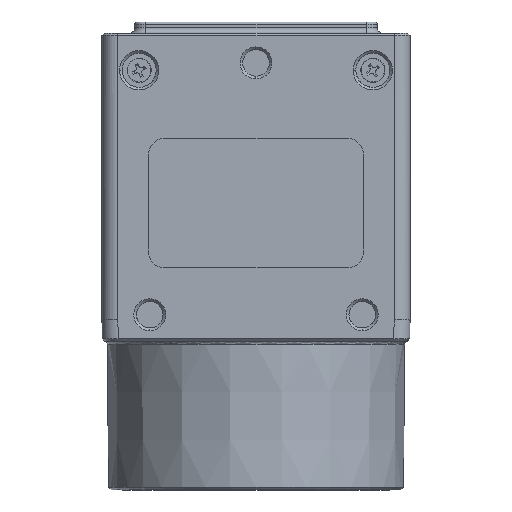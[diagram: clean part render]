
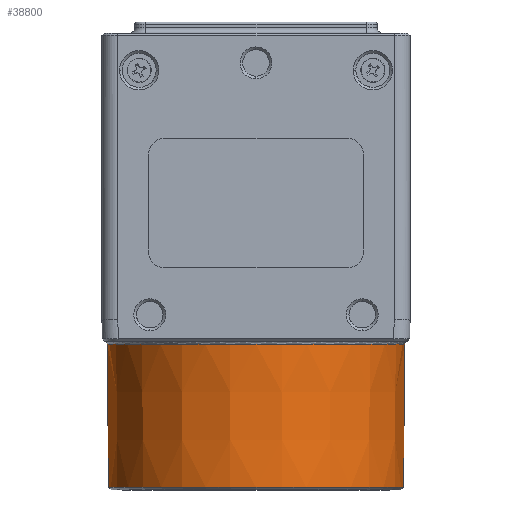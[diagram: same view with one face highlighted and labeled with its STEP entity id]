
A CAD part, front view. The second image highlights one B-rep face of the part: STEP entity #38800.
In plain terms, the highlighted conical face has half-angle 0.5 degrees and reference radius 13.997 mm.
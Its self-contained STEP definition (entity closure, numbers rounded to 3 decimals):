
#74 = DIRECTION ( 'NONE',  ( 0., -1., 0. ) ) ;
#5004 = EDGE_CURVE ( 'NONE', #54539, #26959, #13736, .T. ) ;
#6950 = EDGE_LOOP ( 'NONE', ( #8684, #41021, #41573, #30108 ) ) ;
#7001 = CARTESIAN_POINT ( 'NONE',  ( 0., 0., 13.703 ) ) ;
#8684 = ORIENTED_EDGE ( 'NONE', *, *, #37672, .F. ) ;
#11286 = CARTESIAN_POINT ( 'NONE',  ( 13.997, 0., 13.703 ) ) ;
#12857 = CARTESIAN_POINT ( 'NONE',  ( -13.997, 0., 13.703 ) ) ;
#13736 = CIRCLE ( 'NONE', #57476, 13.88 ) ;
#14207 = LINE ( 'NONE', #58527, #50603 ) ;
#14788 = CONICAL_SURFACE ( 'NONE', #23745, 13.997, 0.009 ) ;
#17755 = CARTESIAN_POINT ( 'NONE',  ( 13.88, 0., 0.25 ) ) ;
#21170 = VECTOR ( 'NONE', #29888, 1000. ) ;
#21548 = CARTESIAN_POINT ( 'NONE',  ( 0., 0., 0.25 ) ) ;
#23745 = AXIS2_PLACEMENT_3D ( 'NONE', #7001, #40262, #45066 ) ;
#24942 = VERTEX_POINT ( 'NONE', #32994 ) ;
#26140 = EDGE_CURVE ( 'NONE', #26959, #24942, #32313, .T. ) ;
#26344 = DIRECTION ( 'NONE',  ( 0., -1., 0. ) ) ;
#26959 = VERTEX_POINT ( 'NONE', #17755 ) ;
#28308 = DIRECTION ( 'NONE',  ( 0., 0., -1. ) ) ;
#29564 = VERTEX_POINT ( 'NONE', #12857 ) ;
#29888 = DIRECTION ( 'NONE',  ( 0.009, 0., 1. ) ) ;
#30046 = DIRECTION ( 'NONE',  ( -0.009, 0., 1. ) ) ;
#30108 = ORIENTED_EDGE ( 'NONE', *, *, #44798, .T. ) ;
#31656 = CARTESIAN_POINT ( 'NONE',  ( -13.88, 0., 0.25 ) ) ;
#32313 = LINE ( 'NONE', #11286, #21170 ) ;
#32994 = CARTESIAN_POINT ( 'NONE',  ( 13.997, 0., 13.703 ) ) ;
#37672 = EDGE_CURVE ( 'NONE', #54539, #29564, #14207, .T. ) ;
#38800 = ADVANCED_FACE ( 'NONE', ( #54165 ), #14788, .T. ) ;
#40262 = DIRECTION ( 'NONE',  ( 0., 0., 1. ) ) ;
#41021 = ORIENTED_EDGE ( 'NONE', *, *, #5004, .T. ) ;
#41573 = ORIENTED_EDGE ( 'NONE', *, *, #26140, .T. ) ;
#44798 = EDGE_CURVE ( 'NONE', #24942, #29564, #60594, .T. ) ;
#45066 = DIRECTION ( 'NONE',  ( 1., 0., 0. ) ) ;
#50603 = VECTOR ( 'NONE', #30046, 1000. ) ;
#52325 = AXIS2_PLACEMENT_3D ( 'NONE', #56788, #28308, #74 ) ;
#54165 = FACE_OUTER_BOUND ( 'NONE', #6950, .T. ) ;
#54539 = VERTEX_POINT ( 'NONE', #31656 ) ;
#54785 = DIRECTION ( 'NONE',  ( 0., 0., 1. ) ) ;
#56788 = CARTESIAN_POINT ( 'NONE',  ( 0., 0., 13.703 ) ) ;
#57476 = AXIS2_PLACEMENT_3D ( 'NONE', #21548, #54785, #26344 ) ;
#58527 = CARTESIAN_POINT ( 'NONE',  ( -13.997, 0., 13.703 ) ) ;
#60594 = CIRCLE ( 'NONE', #52325, 13.997 ) ;
